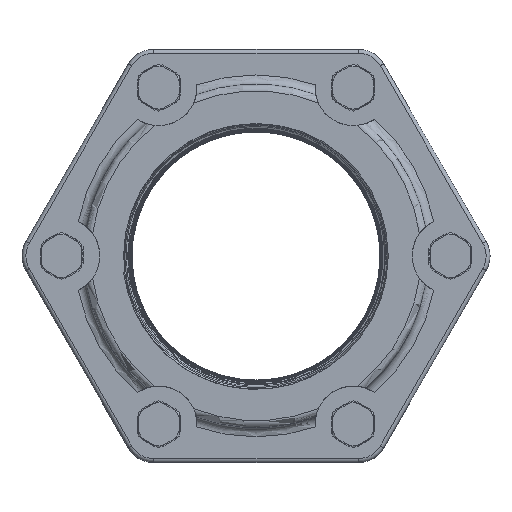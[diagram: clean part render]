
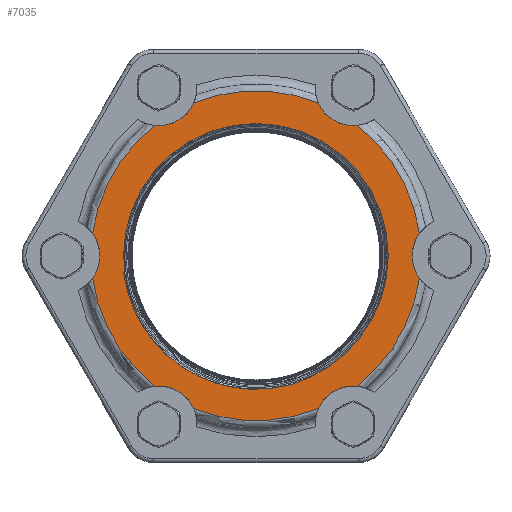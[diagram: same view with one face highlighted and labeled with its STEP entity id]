
A CAD part, top view. The second image highlights one B-rep face of the part: STEP entity #7035.
In plain terms, the highlighted planar face has unit normal (0, 0, 1).
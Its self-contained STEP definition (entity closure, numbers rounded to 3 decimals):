
#1452=B_SPLINE_CURVE_WITH_KNOTS('',3,(#18598,#18599,#18600,#18601,#18602,
#18603,#18604,#18605,#18606,#18607,#18608,#18609,#18610,#18611,#18612,#18613,
#18614,#18615,#18616,#18617),.UNSPECIFIED.,.F.,.U.,(4,2,2,2,2,2,2,2,2,4),
(0.,1.661,3.335,4.176,5.017,
5.873,7.589,9.316,10.577,11.843),
 .UNSPECIFIED.);
#1516=B_SPLINE_CURVE_WITH_KNOTS('',3,(#51191,#51192,#51193,#51194,#51195,
#51196,#51197,#51198,#51199,#51200,#51201,#51202,#51203,#51204,#51205,#51206,
#51207,#51208,#51209,#51210),.UNSPECIFIED.,.F.,.U.,(4,2,2,2,2,2,2,2,2,4),
(0.,1.026,2.046,3.764,4.19,5.042,
6.774,8.445,9.886,11.317),
 .UNSPECIFIED.);
#1765=CIRCLE('',#7311,4.4);
#1766=CIRCLE('',#7313,4.4);
#1769=CIRCLE('',#7321,4.4);
#1771=CIRCLE('',#7325,4.44);
#1807=CIRCLE('',#7406,1.27);
#1808=CIRCLE('',#7408,5.486);
#1812=CIRCLE('',#7416,1.27);
#1814=CIRCLE('',#7420,1.27);
#1816=CIRCLE('',#7424,1.27);
#1818=CIRCLE('',#7428,1.27);
#1820=CIRCLE('',#7432,1.27);
#2036=VERTEX_POINT('',#9421);
#2037=VERTEX_POINT('',#9422);
#2040=VERTEX_POINT('',#9579);
#2049=VERTEX_POINT('',#18618);
#2081=VERTEX_POINT('',#26489);
#2083=VERTEX_POINT('',#26687);
#2152=VERTEX_POINT('',#51368);
#2154=VERTEX_POINT('',#51371);
#2158=VERTEX_POINT('',#51427);
#2161=VERTEX_POINT('',#51473);
#2165=VERTEX_POINT('',#51526);
#2168=VERTEX_POINT('',#51570);
#2172=VERTEX_POINT('',#51621);
#2175=VERTEX_POINT('',#51665);
#2179=VERTEX_POINT('',#51710);
#2182=VERTEX_POINT('',#51748);
#2186=VERTEX_POINT('',#51799);
#2189=VERTEX_POINT('',#51843);
#3389=EDGE_CURVE('',#2036,#2037,#1765,.T.);
#3393=EDGE_CURVE('',#2037,#2040,#1766,.T.);
#3403=EDGE_CURVE('',#2040,#2049,#1452,.T.);
#3440=EDGE_CURVE('',#2081,#2036,#1769,.T.);
#3444=EDGE_CURVE('',#2049,#2083,#1771,.T.);
#3497=EDGE_CURVE('',#2083,#2081,#1516,.T.);
#3561=EDGE_CURVE('',#2154,#2152,#1807,.T.);
#3567=EDGE_CURVE('',#2154,#2158,#1808,.T.);
#3572=EDGE_CURVE('',#2161,#2152,#1808,.T.);
#3580=EDGE_CURVE('',#2165,#2158,#1812,.T.);
#3584=EDGE_CURVE('',#2165,#2168,#1808,.T.);
#3591=EDGE_CURVE('',#2172,#2168,#1814,.T.);
#3595=EDGE_CURVE('',#2172,#2175,#1808,.T.);
#3602=EDGE_CURVE('',#2179,#2175,#1816,.T.);
#3606=EDGE_CURVE('',#2179,#2182,#1808,.T.);
#3613=EDGE_CURVE('',#2186,#2182,#1818,.T.);
#3617=EDGE_CURVE('',#2186,#2189,#1808,.T.);
#3624=EDGE_CURVE('',#2161,#2189,#1820,.T.);
#4859=ORIENTED_EDGE('',*,*,#3444,.T.);
#4860=ORIENTED_EDGE('',*,*,#3497,.T.);
#4861=ORIENTED_EDGE('',*,*,#3440,.T.);
#4862=ORIENTED_EDGE('',*,*,#3389,.T.);
#4863=ORIENTED_EDGE('',*,*,#3393,.T.);
#4864=ORIENTED_EDGE('',*,*,#3403,.T.);
#4865=ORIENTED_EDGE('',*,*,#3561,.T.);
#4866=ORIENTED_EDGE('',*,*,#3572,.F.);
#4867=ORIENTED_EDGE('',*,*,#3624,.T.);
#4868=ORIENTED_EDGE('',*,*,#3617,.F.);
#4869=ORIENTED_EDGE('',*,*,#3613,.T.);
#4870=ORIENTED_EDGE('',*,*,#3606,.F.);
#4871=ORIENTED_EDGE('',*,*,#3602,.T.);
#4872=ORIENTED_EDGE('',*,*,#3595,.F.);
#4873=ORIENTED_EDGE('',*,*,#3591,.T.);
#4874=ORIENTED_EDGE('',*,*,#3584,.F.);
#4875=ORIENTED_EDGE('',*,*,#3580,.T.);
#4876=ORIENTED_EDGE('',*,*,#3567,.F.);
#6201=EDGE_LOOP('',(#4859,#4860,#4861,#4862,#4863,#4864));
#6202=EDGE_LOOP('',(#4865,#4866,#4867,#4868,#4869,#4870,#4871,#4872,#4873,
#4874,#4875,#4876));
#6627=FACE_BOUND('',#6201,.T.);
#6628=FACE_BOUND('',#6202,.T.);
#7035=ADVANCED_FACE('',(#6627,#6628),#99796,.T.);
#7311=AXIS2_PLACEMENT_3D('',#9420,#7984,#7985);
#7313=AXIS2_PLACEMENT_3D('',#9578,#7990,#7991);
#7321=AXIS2_PLACEMENT_3D('',#26488,#8011,#8012);
#7325=AXIS2_PLACEMENT_3D('',#26686,#8019,#8020);
#7406=AXIS2_PLACEMENT_3D('',#51370,#8217,#8218);
#7408=AXIS2_PLACEMENT_3D('',#51426,#8222,#8223);
#7416=AXIS2_PLACEMENT_3D('',#51525,#8239,#8240);
#7420=AXIS2_PLACEMENT_3D('',#51620,#8249,#8250);
#7424=AXIS2_PLACEMENT_3D('',#51709,#8259,#8260);
#7428=AXIS2_PLACEMENT_3D('',#51798,#8269,#8270);
#7432=AXIS2_PLACEMENT_3D('',#51893,#8279,#8280);
#7433=AXIS2_PLACEMENT_3D('',#51894,#8281,$);
#7984=DIRECTION('',(0.,0.,-1.));
#7985=DIRECTION('',(4.4,0.,0.));
#7990=DIRECTION('',(0.,0.,-1.));
#7991=DIRECTION('',(4.4,0.,0.));
#8011=DIRECTION('',(0.,0.,-1.));
#8012=DIRECTION('',(4.4,0.,0.));
#8019=DIRECTION('',(0.,0.,-1.));
#8020=DIRECTION('',(-4.44,0.,0.));
#8217=DIRECTION('',(0.,0.,-1.));
#8218=DIRECTION('',(0.635,-1.1,0.));
#8222=DIRECTION('',(0.,0.,-1.));
#8223=DIRECTION('',(-5.486,0.,0.));
#8239=DIRECTION('',(0.,0.,-1.));
#8240=DIRECTION('',(-0.635,-1.1,0.));
#8249=DIRECTION('',(0.,0.,-1.));
#8250=DIRECTION('',(-1.27,0.,0.));
#8259=DIRECTION('',(0.,0.,-1.));
#8260=DIRECTION('',(-0.635,1.1,0.));
#8269=DIRECTION('',(0.,0.,-1.));
#8270=DIRECTION('',(0.635,1.1,0.));
#8279=DIRECTION('',(0.,0.,-1.));
#8280=DIRECTION('',(1.27,0.,0.));
#8281=DIRECTION('',(0.,0.,1.));
#9420=CARTESIAN_POINT('',(0.,0.,3.912));
#9421=CARTESIAN_POINT('',(-4.4,0.,3.912));
#9422=CARTESIAN_POINT('',(4.4,0.,3.912));
#9578=CARTESIAN_POINT('',(0.,0.,3.912));
#9579=CARTESIAN_POINT('',(2.937,-3.276,3.912));
#18598=CARTESIAN_POINT('',(1.687,3.877,3.912));
#18599=CARTESIAN_POINT('',(2.199,3.667,3.912));
#18600=CARTESIAN_POINT('',(2.664,3.358,3.912));
#18601=CARTESIAN_POINT('',(3.454,2.576,3.912));
#18602=CARTESIAN_POINT('',(3.77,2.11,3.912));
#18603=CARTESIAN_POINT('',(4.097,1.339,3.912));
#18604=CARTESIAN_POINT('',(4.18,1.072,3.912));
#18605=CARTESIAN_POINT('',(4.295,0.525,3.912));
#18606=CARTESIAN_POINT('',(4.325,0.246,3.912));
#18607=CARTESIAN_POINT('',(4.332,-0.316,3.912));
#18608=CARTESIAN_POINT('',(4.308,-0.599,3.912));
#18609=CARTESIAN_POINT('',(4.153,-1.434,3.912));
#18610=CARTESIAN_POINT('',(3.941,-1.967,3.912));
#18611=CARTESIAN_POINT('',(3.325,-2.922,3.912));
#18612=CARTESIAN_POINT('',(2.926,-3.337,3.912));
#18613=CARTESIAN_POINT('',(2.116,-3.903,3.912));
#18614=CARTESIAN_POINT('',(1.742,-4.093,3.912));
#18615=CARTESIAN_POINT('',(0.95,-4.362,3.912));
#18616=CARTESIAN_POINT('',(0.536,-4.44,3.912));
#18617=CARTESIAN_POINT('',(0.117,-4.459,3.912));
#18618=CARTESIAN_POINT('',(1.186,-4.279,3.912));
#26488=CARTESIAN_POINT('',(0.,0.,3.912));
#26489=CARTESIAN_POINT('',(-4.061,-1.694,3.912));
#26686=CARTESIAN_POINT('',(0.,0.,3.912));
#26687=CARTESIAN_POINT('',(-2.965,-3.304,3.912));
#51191=CARTESIAN_POINT('',(-2.091,-3.941,3.912));
#51192=CARTESIAN_POINT('',(-2.39,-3.775,3.912));
#51193=CARTESIAN_POINT('',(-2.669,-3.575,3.912));
#51194=CARTESIAN_POINT('',(-3.173,-3.116,3.912));
#51195=CARTESIAN_POINT('',(-3.398,-2.858,3.912));
#51196=CARTESIAN_POINT('',(-3.916,-2.105,3.912));
#51197=CARTESIAN_POINT('',(-4.146,-1.573,3.912));
#51198=CARTESIAN_POINT('',(-4.297,-0.873,3.912));
#51199=CARTESIAN_POINT('',(-4.321,-0.732,3.912));
#51200=CARTESIAN_POINT('',(-4.37,-0.308,3.912));
#51201=CARTESIAN_POINT('',(-4.375,-0.022,3.912));
#51202=CARTESIAN_POINT('',(-4.305,0.84,3.912));
#51203=CARTESIAN_POINT('',(-4.143,1.405,3.912));
#51204=CARTESIAN_POINT('',(-3.616,2.416,3.912));
#51205=CARTESIAN_POINT('',(-3.262,2.859,3.912));
#51206=CARTESIAN_POINT('',(-2.463,3.532,3.912));
#51207=CARTESIAN_POINT('',(-2.044,3.78,3.912));
#51208=CARTESIAN_POINT('',(-1.142,4.121,3.912));
#51209=CARTESIAN_POINT('',(-0.667,4.214,3.912));
#51210=CARTESIAN_POINT('',(-0.187,4.225,3.912));
#51368=CARTESIAN_POINT('',(5.436,0.741,3.912));
#51370=CARTESIAN_POINT('',(6.467,0.,3.912));
#51371=CARTESIAN_POINT('',(5.436,-0.741,3.912));
#51426=CARTESIAN_POINT('',(0.,0.,3.912));
#51427=CARTESIAN_POINT('',(3.36,-4.337,3.912));
#51473=CARTESIAN_POINT('',(3.36,4.337,3.912));
#51525=CARTESIAN_POINT('',(3.234,-5.601,3.912));
#51526=CARTESIAN_POINT('',(2.076,-5.079,3.912));
#51570=CARTESIAN_POINT('',(-2.076,-5.079,3.912));
#51620=CARTESIAN_POINT('',(-3.234,-5.601,3.912));
#51621=CARTESIAN_POINT('',(-3.36,-4.337,3.912));
#51665=CARTESIAN_POINT('',(-5.436,-0.741,3.912));
#51709=CARTESIAN_POINT('',(-6.467,0.,3.912));
#51710=CARTESIAN_POINT('',(-5.436,0.741,3.912));
#51748=CARTESIAN_POINT('',(-3.36,4.337,3.912));
#51798=CARTESIAN_POINT('',(-3.234,5.601,3.912));
#51799=CARTESIAN_POINT('',(-2.076,5.079,3.912));
#51843=CARTESIAN_POINT('',(2.076,5.079,3.912));
#51893=CARTESIAN_POINT('',(3.234,5.601,3.912));
#51894=CARTESIAN_POINT('',(0.,0.,3.912));
#99796=PLANE('',#7433);
